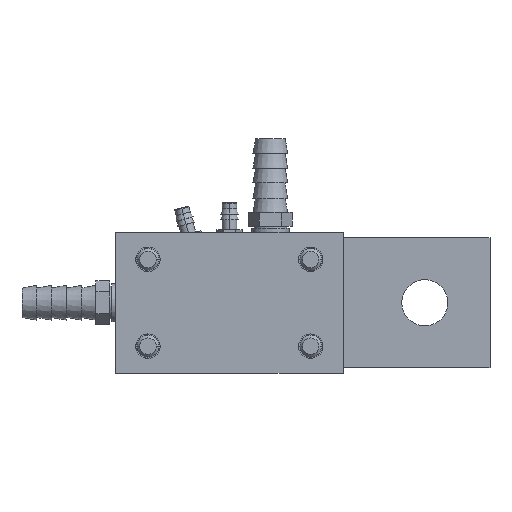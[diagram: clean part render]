
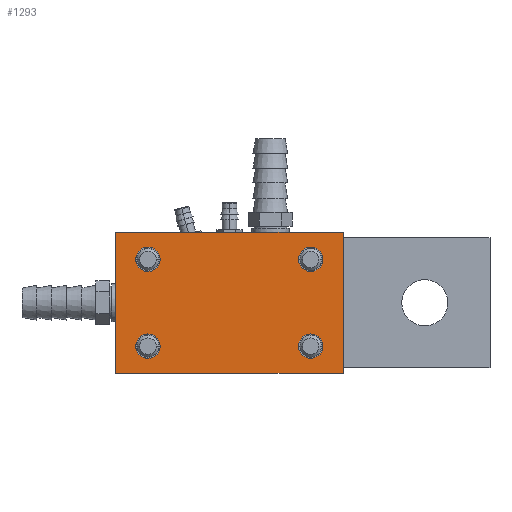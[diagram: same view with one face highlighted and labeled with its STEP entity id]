
A CAD part, left-side view. The second image highlights one B-rep face of the part: STEP entity #1293.
In plain terms, the highlighted planar face has unit normal (-1, 0, 0).
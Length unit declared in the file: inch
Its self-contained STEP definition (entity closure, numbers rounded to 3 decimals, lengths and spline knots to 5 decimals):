
#1028=CARTESIAN_POINT('',(-2.8125,-0.935,-0.5));
#1029=DIRECTION('',(1.,0.,0.));
#1030=DIRECTION('',(0.,-1.,0.));
#1031=AXIS2_PLACEMENT_3D('',#1028,#1029,#1030);
#1033=CARTESIAN_POINT('',(-2.8125,-0.935,-0.5));
#1034=DIRECTION('',(1.,0.,0.));
#1035=DIRECTION('',(0.,1.,0.));
#1036=AXIS2_PLACEMENT_3D('',#1033,#1034,#1035);
#1038=CARTESIAN_POINT('',(-2.8125,-0.935,0.5));
#1039=DIRECTION('',(1.,0.,0.));
#1040=DIRECTION('',(0.,-1.,0.));
#1041=AXIS2_PLACEMENT_3D('',#1038,#1039,#1040);
#1043=CARTESIAN_POINT('',(-2.8125,-0.935,0.5));
#1044=DIRECTION('',(1.,0.,0.));
#1045=DIRECTION('',(0.,1.,0.));
#1046=AXIS2_PLACEMENT_3D('',#1043,#1044,#1045);
#1048=CARTESIAN_POINT('',(-2.8125,0.94,-0.5));
#1049=DIRECTION('',(1.,0.,0.));
#1050=DIRECTION('',(0.,-1.,0.));
#1051=AXIS2_PLACEMENT_3D('',#1048,#1049,#1050);
#1053=CARTESIAN_POINT('',(-2.8125,0.94,-0.5));
#1054=DIRECTION('',(1.,0.,0.));
#1055=DIRECTION('',(0.,1.,0.));
#1056=AXIS2_PLACEMENT_3D('',#1053,#1054,#1055);
#1058=CARTESIAN_POINT('',(-2.8125,0.94,0.5));
#1059=DIRECTION('',(1.,0.,0.));
#1060=DIRECTION('',(0.,-1.,0.));
#1061=AXIS2_PLACEMENT_3D('',#1058,#1059,#1060);
#1063=CARTESIAN_POINT('',(-2.8125,0.94,0.5));
#1064=DIRECTION('',(1.,0.,0.));
#1065=DIRECTION('',(0.,1.,0.));
#1066=AXIS2_PLACEMENT_3D('',#1063,#1064,#1065);
#1096=DIRECTION('',(0.,-1.,0.));
#1097=VECTOR('',#1096,2.625);
#1098=CARTESIAN_POINT('',(-2.8125,1.315,0.8125));
#1099=LINE('',#1098,#1097);
#1104=DIRECTION('',(0.,0.,-1.));
#1105=VECTOR('',#1104,1.625);
#1106=CARTESIAN_POINT('',(-2.8125,-1.31,0.8125));
#1107=LINE('',#1106,#1105);
#1116=DIRECTION('',(0.,1.,0.));
#1117=VECTOR('',#1116,2.625);
#1118=CARTESIAN_POINT('',(-2.8125,-1.31,-0.8125));
#1119=LINE('',#1118,#1117);
#1132=DIRECTION('',(0.,0.,1.));
#1133=VECTOR('',#1132,1.625);
#1134=CARTESIAN_POINT('',(-2.8125,1.315,-0.8125));
#1135=LINE('',#1134,#1133);
#1146=CARTESIAN_POINT('',(-2.8125,1.315,-0.8125));
#1147=VERTEX_POINT('',#1146);
#1148=CARTESIAN_POINT('',(-2.8125,1.315,0.8125));
#1149=VERTEX_POINT('',#1148);
#1152=CARTESIAN_POINT('',(-2.8125,-1.31,-0.8125));
#1153=VERTEX_POINT('',#1152);
#1154=CARTESIAN_POINT('',(-2.8125,-1.31,0.8125));
#1155=VERTEX_POINT('',#1154);
#1156=CARTESIAN_POINT('',(-2.8125,-1.07563,-0.5));
#1158=VERTEX_POINT('',#1156);
#1160=CARTESIAN_POINT('',(-2.8125,-0.79438,-0.5));
#1162=VERTEX_POINT('',#1160);
#1164=CARTESIAN_POINT('',(-2.8125,-1.07563,0.5));
#1166=VERTEX_POINT('',#1164);
#1168=CARTESIAN_POINT('',(-2.8125,-0.79438,0.5));
#1170=VERTEX_POINT('',#1168);
#1172=CARTESIAN_POINT('',(-2.8125,0.79938,-0.5));
#1174=VERTEX_POINT('',#1172);
#1176=CARTESIAN_POINT('',(-2.8125,1.08063,-0.5));
#1178=VERTEX_POINT('',#1176);
#1180=CARTESIAN_POINT('',(-2.8125,0.79938,0.5));
#1182=VERTEX_POINT('',#1180);
#1184=CARTESIAN_POINT('',(-2.8125,1.08063,0.5));
#1186=VERTEX_POINT('',#1184);
#1256=CARTESIAN_POINT('',(-2.8125,0.0025,0.));
#1257=DIRECTION('',(-1.,0.,0.));
#1258=DIRECTION('',(0.,1.,0.));
#1259=AXIS2_PLACEMENT_3D('',#1256,#1257,#1258);
#1260=PLANE('',#1259);
#1262=ORIENTED_EDGE('',*,*,#1261,.T.);
#1264=ORIENTED_EDGE('',*,*,#1263,.T.);
#1266=ORIENTED_EDGE('',*,*,#1265,.T.);
#1268=ORIENTED_EDGE('',*,*,#1267,.T.);
#1269=EDGE_LOOP('',(#1262,#1264,#1266,#1268));
#1270=FACE_OUTER_BOUND('',#1269,.F.);
#1272=ORIENTED_EDGE('',*,*,#1271,.F.);
#1274=ORIENTED_EDGE('',*,*,#1273,.F.);
#1275=EDGE_LOOP('',(#1272,#1274));
#1276=FACE_BOUND('',#1275,.F.);
#1278=ORIENTED_EDGE('',*,*,#1277,.F.);
#1280=ORIENTED_EDGE('',*,*,#1279,.F.);
#1281=EDGE_LOOP('',(#1278,#1280));
#1282=FACE_BOUND('',#1281,.F.);
#1284=ORIENTED_EDGE('',*,*,#1283,.F.);
#1286=ORIENTED_EDGE('',*,*,#1285,.F.);
#1287=EDGE_LOOP('',(#1284,#1286));
#1288=FACE_BOUND('',#1287,.F.);
#1289=ORIENTED_EDGE('',*,*,#1197,.F.);
#1290=ORIENTED_EDGE('',*,*,#1250,.F.);
#1291=EDGE_LOOP('',(#1289,#1290));
#1292=FACE_BOUND('',#1291,.F.);
#1032=CIRCLE('',#1031,0.14063);
#1037=CIRCLE('',#1036,0.14063);
#1042=CIRCLE('',#1041,0.14063);
#1047=CIRCLE('',#1046,0.14063);
#1052=CIRCLE('',#1051,0.14063);
#1057=CIRCLE('',#1056,0.14063);
#1062=CIRCLE('',#1061,0.14063);
#1067=CIRCLE('',#1066,0.14063);
#1197=EDGE_CURVE('',#1158,#1162,#1032,.T.);
#1250=EDGE_CURVE('',#1162,#1158,#1037,.T.);
#1261=EDGE_CURVE('',#1149,#1155,#1099,.T.);
#1263=EDGE_CURVE('',#1155,#1153,#1107,.T.);
#1265=EDGE_CURVE('',#1153,#1147,#1119,.T.);
#1267=EDGE_CURVE('',#1147,#1149,#1135,.T.);
#1271=EDGE_CURVE('',#1166,#1170,#1042,.T.);
#1273=EDGE_CURVE('',#1170,#1166,#1047,.T.);
#1277=EDGE_CURVE('',#1174,#1178,#1052,.T.);
#1279=EDGE_CURVE('',#1178,#1174,#1057,.T.);
#1283=EDGE_CURVE('',#1182,#1186,#1062,.T.);
#1285=EDGE_CURVE('',#1186,#1182,#1067,.T.);
#1293=ADVANCED_FACE('',(#1270,#1276,#1282,#1288,#1292),#1260,.T.);
